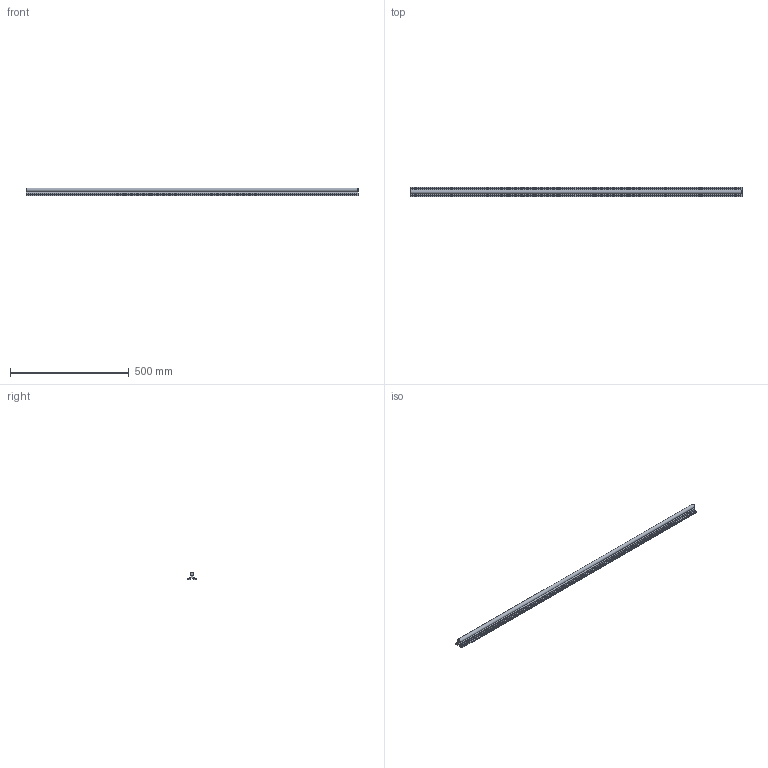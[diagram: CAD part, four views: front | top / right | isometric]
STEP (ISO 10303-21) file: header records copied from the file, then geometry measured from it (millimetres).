
FILE_DESCRIPTION(/* description */ (''),/* implementation_level */ '2;1');
FILE_NAME(/* name */ 'C:\Users\David\Desktop\stepFiles\Profilfuehrung\LFS16x1400.stp',/* time_stamp */ '2018-06-24T15:18:19+02:00',/* author */ ('Buskamp'),/* organization */ (''),/* preprocessor_version */ 'ST-DEVELOPER v17',/* originating_system */ 'Autodesk Inventor 2019',/* authorisation */ '');
FILE_SCHEMA (('AUTOMOTIVE_DESIGN { 1 0 10303 214 3 1 1 }'));
Length unit declared in the file: millimetre
Products named in the file (1): Linearführung D16xvariabel
Bounding box: 1400 x 40 x 32.97 mm (x, y, z)
Volume: 714812.6 mm3; surface area: 219894.9 mm2
Topology: 1 solids, 1 shells, 124 faces, 414 edges, 272 vertices
Faces by surface type: plane 85, cylinder 21, cone 18
Full cylindrical faces by diameter (mm): 5.5 x20
Entity records: 4645 total; most frequent: CARTESIAN_POINT 883, ORIENTED_EDGE 828, DIRECTION 788, EDGE_CURVE 414, AXIS2_PLACEMENT_3D 285, VERTEX_POINT 272, LINE 218, VECTOR 218
